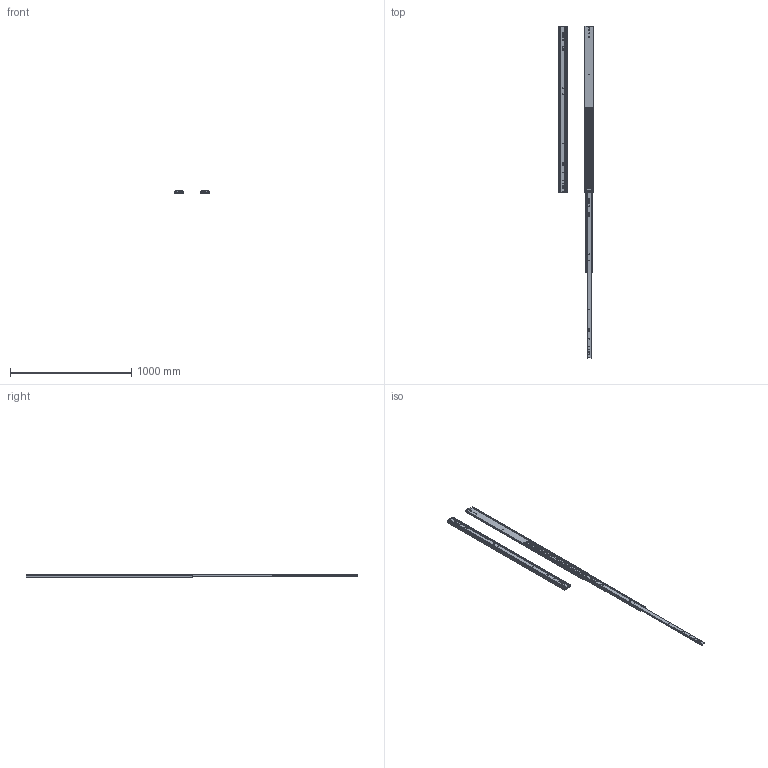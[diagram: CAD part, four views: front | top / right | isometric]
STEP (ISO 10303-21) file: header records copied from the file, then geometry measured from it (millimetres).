
FILE_DESCRIPTION((''),'2;1');
FILE_NAME('ASSEM1_1_2_3_4_5_6_7_8_9_10__24_ASM','2026-04-08T10:16:10',('T260078'),(''),'CREO PARAMETRIC BY PTC INC, 2025123','CREO PARAMETRIC BY PTC INC, 2025123','');
FILE_SCHEMA(('CONFIG_CONTROL_DESIGN','SHAPE_APPEARANCE_LAYERS_GROUPS'));
Length unit declared in the file: millimetre
Products named in the file (6): 76J01-54_X2_540B_X0_-M; 76J01-54_X2_540B_X0_-I; 76J01-54_X2_540B_X0_-O; 76J01-54_X2_540_X0__ASM; 76J01-54_X2_540B_X0_-_X2_5C5595_ASM; ASSEM1_1_2_3_4_5_6_7_8_9_10__24_ASM
Assembly tree (8 placements, depth 3):
  ASSEM1_1_2_3_4_5_6_7_8_9_10__24_ASM
    76J01-54_X2_540_X0__ASM
      76J01-54_X2_540B_X0_-M
      76J01-54_X2_540B_X0_-I
      76J01-54_X2_540B_X0_-O
    76J01-54_X2_540B_X0_-_X2_5C5595_ASM
      76J01-54_X2_540B_X0_-M
      76J01-54_X2_540B_X0_-I
      76J01-54_X2_540B_X0_-O
Bounding box: 295.44 x 2743.2 x 19.3 mm (x, y, z)
Volume: 1696288.6 mm3; surface area: 1710265.7 mm2
Topology: 6 solids, 8 shells, 382 faces, 1296 edges, 916 vertices
Faces by surface type: cylinder 212, plane 170
Entity records: 8802 total; most frequent: CARTESIAN_POINT 1473, DIRECTION 1306, ORIENTED_EDGE 1262, EDGE_CURVE 648, AXIS2_PLACEMENT_3D 467, VERTEX_POINT 458, VECTOR 372, LINE 372
